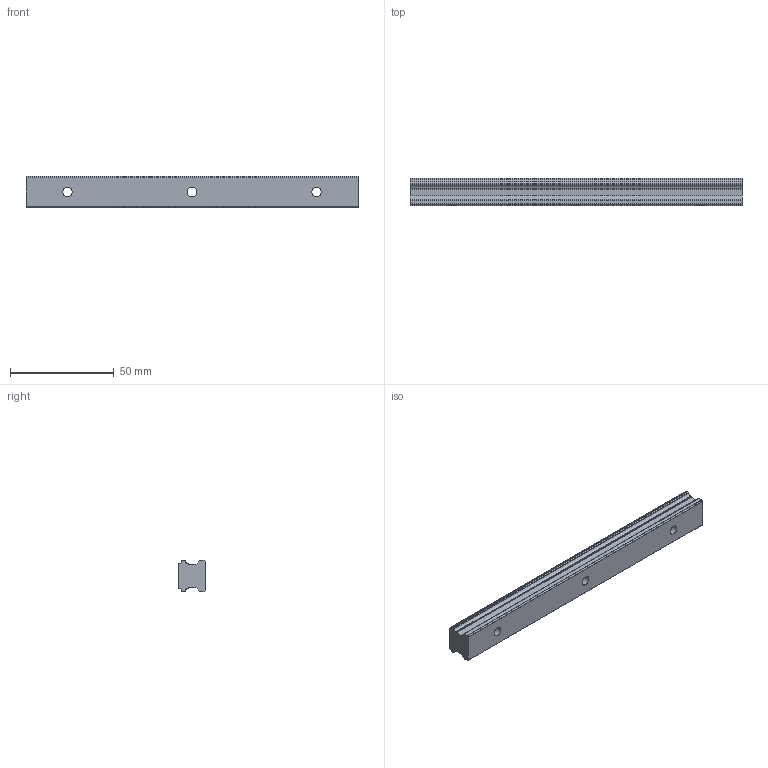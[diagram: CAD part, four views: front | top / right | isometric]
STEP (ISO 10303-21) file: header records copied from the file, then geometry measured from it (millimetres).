
FILE_DESCRIPTION(/* description */ ('STEP AP203'),/* implementation_level */ '2;1');
FILE_NAME(/* name */ 'SHS15-160L(GK) RAIL(20)',/* time_stamp */ '2024-05-14T03:41:24+02:00',/* author */ ('License CC BY-ND 4.0'),/* organization */ ('CADENAS'),/* preprocessor_version */ 'ST-DEVELOPER v19.3',/* originating_system */ 'PARTsolutions',/* authorisation */ ' ');
FILE_SCHEMA (('CONFIG_CONTROL_DESIGN'));
Length unit declared in the file: millimetre
Products named in the file (1): SHS15-160L(GK) RAIL(20)
Bounding box: 160 x 13 x 15 mm (x, y, z)
Volume: 25756.4 mm3; surface area: 9996.4 mm2
Topology: 1 solids, 1 shells, 53 faces, 144 edges, 96 vertices
Faces by surface type: cylinder 28, plane 25
Full cylindrical faces by diameter (mm): 4.5 x3, 7.5 x3
Entity records: 1706 total; most frequent: DIRECTION 302, CARTESIAN_POINT 288, ORIENTED_EDGE 276, EDGE_CURVE 138, AXIS2_PLACEMENT_3D 110, VERTEX_POINT 96, LINE 82, VECTOR 82
